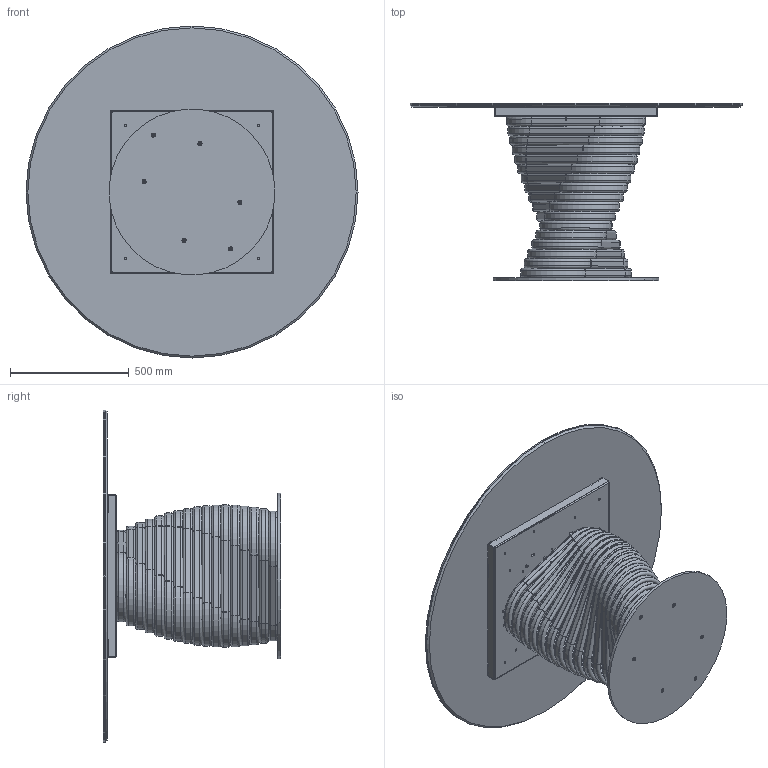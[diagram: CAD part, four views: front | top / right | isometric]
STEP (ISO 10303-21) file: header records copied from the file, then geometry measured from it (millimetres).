
FILE_DESCRIPTION (( 'STEP AP203' ), '1' );
FILE_NAME ('RO06C.STEP', '2024-08-07T13:09:34', ( '' ), ( '' ), 'SwSTEP 2.0', 'SolidWorks 2022', '' );
FILE_SCHEMA (( 'CONFIG_CONTROL_DESIGN' ));
Length unit declared in the file: millimetre
Products named in the file (15): TTAV0801-02-TELAIO UNIVERSALE TONDO-VASSOIO; TTAV0801-02-TELAIO UNIVERSALE TONDO; K1XCMXX-00-Piani Rotondi in ceramica_D.1400; M8xXXmm_M8x20mm; ROB200000-00-PIASTRA BASE_Ø70cm; ROBX00000MED-00-Anello rotolo MEDIO_Default<A macchina>; ROBX00000-00-ROTOLO BASE 17 ANELLI; ROBX00000INF-00-Anello rotolo INFERIORE_Default<A macchina>; M8xXXmm_hex_M8X20mm; ROBX00000SUP-00-Anello rotolo SUPERIORE_Default<A macchina>; COLLO TELAIO UNIVERSALE TTAV0801 CON FERRAMENTA_MTG TOP CRISTALLO VERNICIATO-CERAMICA; 434070-00-PIEDINO TPV GOMMA NERO D. 30x8max18_filo estetico; TTAV0801 TELAIO UNIVERSALE TONDO-PIASTRINA; RO06C; rondella M8_8X24
Assembly tree (45 placements, depth 4):
  RO06C
    ROB200000-00-PIASTRA BASE_Ø70cm
    ROBX00000-00-ROTOLO BASE 17 ANELLI
      ROBX00000INF-00-Anello rotolo INFERIORE_Default<A macchina>
      ROBX00000MED-00-Anello rotolo MEDIO_Default<A macchina>  x15
      ROBX00000SUP-00-Anello rotolo SUPERIORE_Default<A macchina>
    M8xXXmm_hex_M8X20mm  x6
    COLLO TELAIO UNIVERSALE TTAV0801 CON FERRAMENTA_MTG TOP CRISTALLO VERNICIATO-CERAMICA
      TTAV0801-02-TELAIO UNIVERSALE TONDO
        TTAV0801-02-TELAIO UNIVERSALE TONDO-VASSOIO
        TTAV0801 TELAIO UNIVERSALE TONDO-PIASTRINA  x4
      434070-00-PIEDINO TPV GOMMA NERO D. 30x8max18_filo estetico  x4
    rondella M8_8X24  x4
    M8xXXmm_M8x20mm  x4
    K1XCMXX-00-Piani Rotondi in ceramica_D.1400
Bounding box: 1400 x 748 x 1400 mm (x, y, z)
Volume: 36316841.9 mm3; surface area: 13092448.9 mm2
Topology: 98 solids, 98 shells, 1638 faces, 4010 edges, 2548 vertices
Faces by surface type: plane 696, cylinder 628, torus 212, cone 102
Entity records: 22675 total; most frequent: CARTESIAN_POINT 5030, DIRECTION 3312, ORIENTED_EDGE 3090, EDGE_CURVE 1545, AXIS2_PLACEMENT_3D 1221, VERTEX_POINT 995, VECTOR 870, LINE 870
